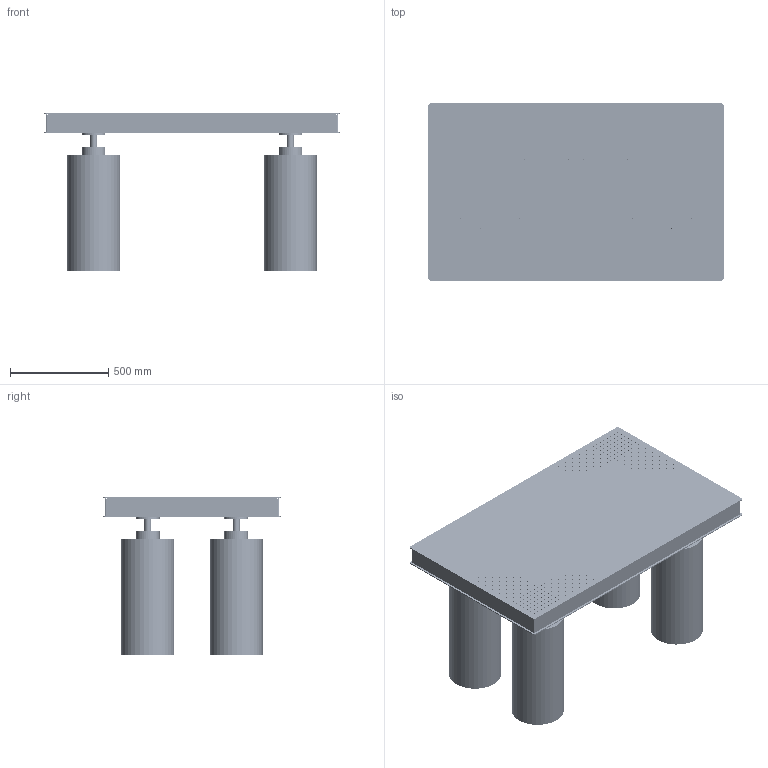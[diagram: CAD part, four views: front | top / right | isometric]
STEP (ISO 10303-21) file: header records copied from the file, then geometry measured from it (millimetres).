
FILE_DESCRIPTION (( 'STEP AP203' ), '1' );
FILE_NAME ('ZDR15-09N(AP203).STEP', '2024-04-11T06:25:56', ( 'Windows 蚚誧' ), ( 'Organization' ), 'SwSTEP 2.0', 'SolidWorks 2020', '' );
FILE_SCHEMA (( 'CONFIG_CONTROL_DESIGN' ));
Length unit declared in the file: millimetre
Products named in the file (1): ZDR15-09N(AP203)
Bounding box: 1500 x 900 x 800 mm (x, y, z)
Volume: 149185117.3 mm3; surface area: 9063043.9 mm2
Topology: 14 solids, 14 shells, 4080 faces, 12120 edges, 8080 vertices
Faces by surface type: cylinder 3992, plane 88
Entity records: 149647 total; most frequent: DIRECTION 28266, CARTESIAN_POINT 24281, ORIENTED_EDGE 24240, EDGE_CURVE 12120, AXIS2_PLACEMENT_3D 12065, VERTEX_POINT 8080, EDGE_LOOP 8036, CIRCLE 7984
